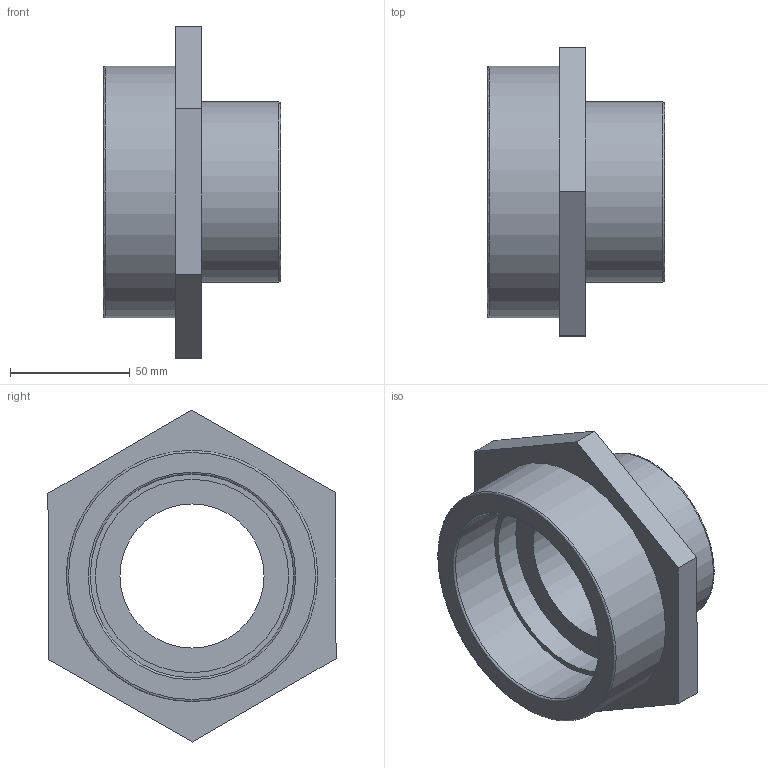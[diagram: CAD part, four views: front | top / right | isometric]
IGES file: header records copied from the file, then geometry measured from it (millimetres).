
Global section: file name: 052201025030.ipt; native system: Autodesk Inventor 2015; preprocessor: unknown; author: KIM; date: 20171207.165427; units: millimetre
Bounding box: 74 x 120.25 x 138.56 mm (x, y, z)
Volume: 241085.3 mm3; surface area: 57660.8 mm2
Topology: 1 solids, 1 shells, 21 faces, 55 edges, 40 vertices
Faces by surface type: plane 12, revolution 7, cylinder 2
Full cylindrical faces by diameter (mm): 75.184 x1, 104.884 x1
